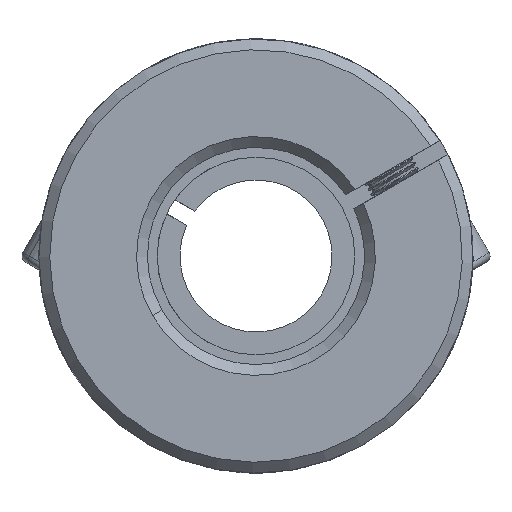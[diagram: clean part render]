
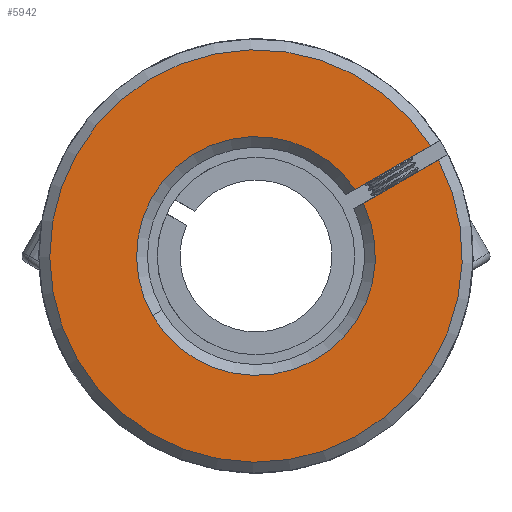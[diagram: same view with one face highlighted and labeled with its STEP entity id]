
A CAD part, front view. The second image highlights one B-rep face of the part: STEP entity #5942.
In plain terms, the highlighted planar face has unit normal (0, -1, 0).
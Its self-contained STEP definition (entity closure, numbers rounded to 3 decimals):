
#13 = CIRCLE ( 'NONE', #2026, 11. ) ;
#235 = DIRECTION ( 'NONE',  ( 0., 1., 0. ) ) ;
#1020 = VERTEX_POINT ( 'NONE', #1129 ) ;
#1129 = CARTESIAN_POINT ( 'NONE',  ( 14.616, -31.239, 50.147 ) ) ;
#1703 = EDGE_LOOP ( 'NONE', ( #3990, #1915, #10670, #6246, #12935 ) ) ;
#1915 = ORIENTED_EDGE ( 'NONE', *, *, #8758, .T. ) ;
#2026 = AXIS2_PLACEMENT_3D ( 'NONE', #13009, #10685, #7694 ) ;
#2116 = VERTEX_POINT ( 'NONE', #10196 ) ;
#3156 = DIRECTION ( 'NONE',  ( 0., 1., 0. ) ) ;
#3747 = EDGE_CURVE ( 'NONE', #9018, #11667, #6525, .T. ) ;
#3990 = ORIENTED_EDGE ( 'NONE', *, *, #3747, .F. ) ;
#4054 = AXIS2_PLACEMENT_3D ( 'NONE', #9605, #3156, #10699 ) ;
#4198 = DIRECTION ( 'NONE',  ( -0.866, 0., -0.5 ) ) ;
#4754 = CARTESIAN_POINT ( 'NONE',  ( 8.431, -31.239, 44.841 ) ) ;
#5776 = DIRECTION ( 'NONE',  ( 0.866, 0., 0.5 ) ) ;
#5783 = CARTESIAN_POINT ( 'NONE',  ( 52.98, -31.239, 45.743 ) ) ;
#5942 = ADVANCED_FACE ( 'NONE', ( #9338 ), #12012, .F. ) ;
#6246 = ORIENTED_EDGE ( 'NONE', *, *, #13741, .F. ) ;
#6411 = CARTESIAN_POINT ( 'NONE',  ( 7.68, -31.239, 46.14 ) ) ;
#6525 = LINE ( 'NONE', #10102, #12045 ) ;
#6593 = EDGE_CURVE ( 'NONE', #2116, #6640, #10007, .T. ) ;
#6634 = VECTOR ( 'NONE', #4198, 1000. ) ;
#6640 = VERTEX_POINT ( 'NONE', #6411 ) ;
#7694 = DIRECTION ( 'NONE',  ( 0.5, 0., -0.866 ) ) ;
#8102 = CARTESIAN_POINT ( 'NONE',  ( 15.367, -31.239, 48.848 ) ) ;
#8384 = CIRCLE ( 'NONE', #10868, 19. ) ;
#8612 = CARTESIAN_POINT ( 'NONE',  ( 6.812, -31.239, 45.638 ) ) ;
#8758 = EDGE_CURVE ( 'NONE', #9018, #2116, #13, .T. ) ;
#8864 = LINE ( 'NONE', #8612, #6634 ) ;
#9018 = VERTEX_POINT ( 'NONE', #4754 ) ;
#9338 = FACE_OUTER_BOUND ( 'NONE', #1703, .T. ) ;
#9425 = AXIS2_PLACEMENT_3D ( 'NONE', #5783, #235, #9919 ) ;
#9605 = CARTESIAN_POINT ( 'NONE',  ( -1.447, -31.239, 40. ) ) ;
#9682 = CARTESIAN_POINT ( 'NONE',  ( -1.447, -31.239, 40. ) ) ;
#9816 = DIRECTION ( 'NONE',  ( 0., -1., 0. ) ) ;
#9919 = DIRECTION ( 'NONE',  ( 0.5, 0., -0.866 ) ) ;
#10007 = CIRCLE ( 'NONE', #4054, 11. ) ;
#10102 = CARTESIAN_POINT ( 'NONE',  ( 7.562, -31.239, 44.339 ) ) ;
#10196 = CARTESIAN_POINT ( 'NONE',  ( -10.971, -31.239, 34.497 ) ) ;
#10670 = ORIENTED_EDGE ( 'NONE', *, *, #6593, .T. ) ;
#10685 = DIRECTION ( 'NONE',  ( 0., 1., 0. ) ) ;
#10699 = DIRECTION ( 'NONE',  ( 0.5, 0., -0.866 ) ) ;
#10718 = DIRECTION ( 'NONE',  ( 0.5, 0., -0.866 ) ) ;
#10868 = AXIS2_PLACEMENT_3D ( 'NONE', #9682, #9816, #10718 ) ;
#10897 = EDGE_CURVE ( 'NONE', #1020, #11667, #8384, .T. ) ;
#11667 = VERTEX_POINT ( 'NONE', #8102 ) ;
#12012 = PLANE ( 'NONE',  #9425 ) ;
#12045 = VECTOR ( 'NONE', #5776, 1000. ) ;
#12935 = ORIENTED_EDGE ( 'NONE', *, *, #10897, .T. ) ;
#13009 = CARTESIAN_POINT ( 'NONE',  ( -1.447, -31.239, 40. ) ) ;
#13741 = EDGE_CURVE ( 'NONE', #1020, #6640, #8864, .T. ) ;
